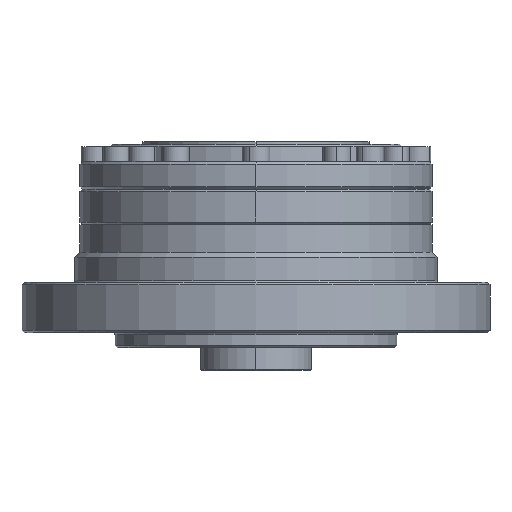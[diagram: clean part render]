
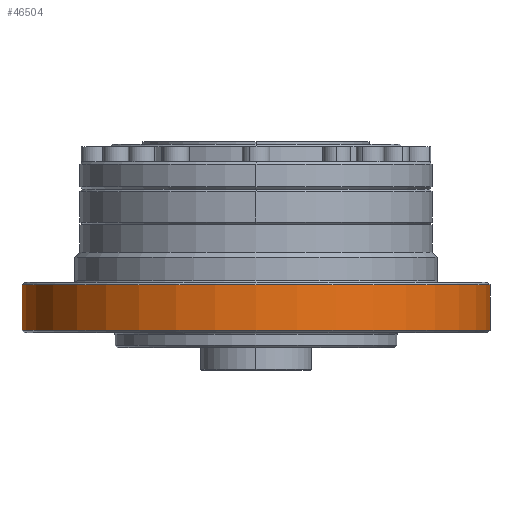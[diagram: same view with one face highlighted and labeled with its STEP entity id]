
A CAD part, front view. The second image highlights one B-rep face of the part: STEP entity #46504.
In plain terms, the highlighted cylindrical face has radius 46.5 mm (diameter 93 mm), a partial arc.
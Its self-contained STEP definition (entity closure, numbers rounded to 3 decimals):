
#2935 = LINE ( 'NONE', #22801, #58921 ) ;
#6136 = VERTEX_POINT ( 'NONE', #47475 ) ;
#7364 = AXIS2_PLACEMENT_3D ( 'NONE', #55623, #61089, #50415 ) ;
#8393 = ORIENTED_EDGE ( 'NONE', *, *, #21390, .T. ) ;
#11838 = DIRECTION ( 'NONE',  ( 0., 0., -1. ) ) ;
#16763 = DIRECTION ( 'NONE',  ( 0., 0., -1. ) ) ;
#16864 = ORIENTED_EDGE ( 'NONE', *, *, #20405, .T. ) ;
#17661 = DIRECTION ( 'NONE',  ( 0., 0., 1. ) ) ;
#19157 = VERTEX_POINT ( 'NONE', #32012 ) ;
#20405 = EDGE_CURVE ( 'NONE', #66641, #19157, #25435, .T. ) ;
#21390 = EDGE_CURVE ( 'NONE', #19157, #6136, #43756, .T. ) ;
#22801 = CARTESIAN_POINT ( 'NONE',  ( 46.5, 0., 0. ) ) ;
#25435 = CIRCLE ( 'NONE', #47060, 46.5 ) ;
#28336 = CARTESIAN_POINT ( 'NONE',  ( 0., 0., 12.495 ) ) ;
#32012 = CARTESIAN_POINT ( 'NONE',  ( -46.5, 0., 12.495 ) ) ;
#33820 = DIRECTION ( 'NONE',  ( 1., 0., 0. ) ) ;
#39437 = CARTESIAN_POINT ( 'NONE',  ( 46.5, 0., 3.5 ) ) ;
#42293 = AXIS2_PLACEMENT_3D ( 'NONE', #50179, #17661, #55626 ) ;
#43756 = LINE ( 'NONE', #54730, #58213 ) ;
#43760 = VERTEX_POINT ( 'NONE', #39437 ) ;
#46504 = ADVANCED_FACE ( 'NONE', ( #55422 ), #63023, .T. ) ;
#47060 = AXIS2_PLACEMENT_3D ( 'NONE', #28336, #66305, #33820 ) ;
#47475 = CARTESIAN_POINT ( 'NONE',  ( -46.5, 0., 3.5 ) ) ;
#47755 = EDGE_LOOP ( 'NONE', ( #58127, #16864, #8393, #63928 ) ) ;
#49207 = CARTESIAN_POINT ( 'NONE',  ( 46.5, 0., 12.495 ) ) ;
#50179 = CARTESIAN_POINT ( 'NONE',  ( 0., 0., 3.5 ) ) ;
#50415 = DIRECTION ( 'NONE',  ( -1., 0., 0. ) ) ;
#54730 = CARTESIAN_POINT ( 'NONE',  ( -46.5, 0., 0. ) ) ;
#55422 = FACE_OUTER_BOUND ( 'NONE', #47755, .T. ) ;
#55623 = CARTESIAN_POINT ( 'NONE',  ( 0., 0., 0. ) ) ;
#55626 = DIRECTION ( 'NONE',  ( -1., 0., 0. ) ) ;
#56333 = CIRCLE ( 'NONE', #42293, 46.5 ) ;
#58127 = ORIENTED_EDGE ( 'NONE', *, *, #67933, .F. ) ;
#58213 = VECTOR ( 'NONE', #16763, 1000. ) ;
#58921 = VECTOR ( 'NONE', #11838, 1000. ) ;
#61089 = DIRECTION ( 'NONE',  ( 0., 0., -1. ) ) ;
#63023 = CYLINDRICAL_SURFACE ( 'NONE', #7364, 46.5 ) ;
#63928 = ORIENTED_EDGE ( 'NONE', *, *, #70399, .T. ) ;
#66305 = DIRECTION ( 'NONE',  ( 0., 0., -1. ) ) ;
#66641 = VERTEX_POINT ( 'NONE', #49207 ) ;
#67933 = EDGE_CURVE ( 'NONE', #66641, #43760, #2935, .T. ) ;
#70399 = EDGE_CURVE ( 'NONE', #6136, #43760, #56333, .T. ) ;
